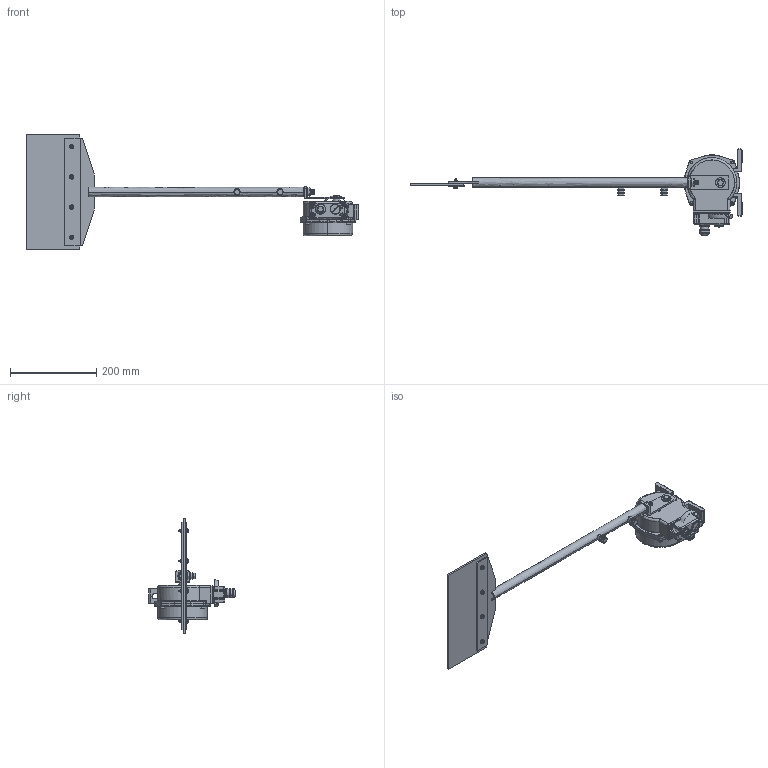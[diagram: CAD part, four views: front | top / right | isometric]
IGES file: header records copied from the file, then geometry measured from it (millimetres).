
Start section: SolidWorks IGES file using analytic representation for surfaces
Global section: file name: C:\Users\Äîì\Desktop\Äàò÷èêè ìîäåëè\BHS c JIonaTou\Rjvgfc\BHS ñ ëîïàòîé àëþìèíèé ðåçüáà.IGS; native system: SolidWorks 2020; preprocessor: SolidWorks 2020; author: Äîì; date: 210323.141955; units: millimetre
Bounding box: 770.08 x 199.6 x 267 mm (x, y, z)
Surface area: 309174.9 mm2 (no closed solid volume)
Topology: 0 solids, 0 shells, 1258 faces, 16974 edges, 16951 vertices
Faces by surface type: revolution 649, bspline 609
